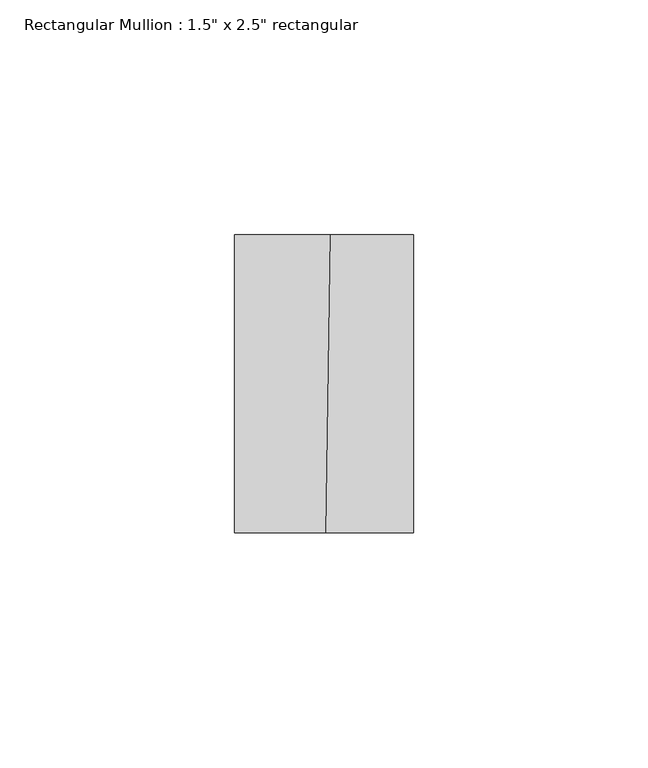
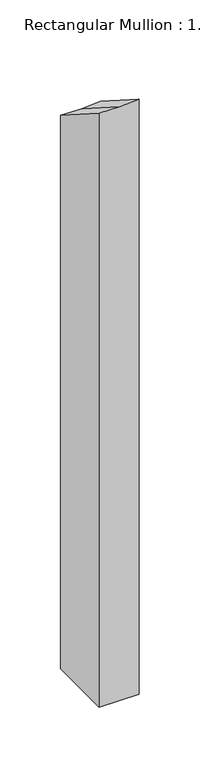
"""IFC4 building model written with IfcOpenShell, lengths in millimetres: member geometry."""

from ifc_helpers import new_model, si_unit, origin, place, context, project, spatial, faceted_brep, source, transform, mapped, element, save


def member_6fa90325(model_context):
    return source(origin(), model_context, "Body", "Brep", [
        faceted_brep([(19.05, 31.75, -614.2573179), (19.05, -31.75, -614.2573179), (-19.05, -31.75, -614.2573179), (-19.05, 31.75, -614.2573179), (-19.05, 31.75, -57.8882299), (1.3818247, 31.75, -58.1393591), (19.05, 31.75, -57.0812497), (-19.05, -31.75, -17.1122691), (19.05, -31.75, -16.2353169), (0.4124006, -31.75, -17.351483)], [[[0, 1, 2, 3]], [[4, 5, 6, 0, 3]], [[7, 4, 3, 2]], [[8, 9, 7, 2, 1]], [[6, 8, 1, 0]], [[6, 5, 9, 8]], [[5, 4, 7, 9]]]),
    ])


if __name__ == "__main__":
    model = new_model("IFC4")
    model_context = context("Model", 3, world=origin())
    ifc_project = project(units=[si_unit("LENGTHUNIT", "METRE", prefix="MILLI")], contexts=[model_context])
    site = spatial("IfcSite", under=ifc_project)
    building = spatial("IfcBuilding", under=site)
    placement = place(None, origin())
    member_shape = member_6fa90325(model_context)
    element("IfcMember", 1, ObjectType="Rectangular Mullion : 1.5\" x 2.5\" rectangular", at=placement, inside=building, context=model_context, shape_type="MappedRepresentation", body=[
        mapped(member_shape, transform((0.0, 0.0, 0.0), x_axis=(1.0, 0.0, 0.0), y_axis=(0.0, 1.0, 0.0), z_axis=(0.0, 0.0, 1.0))),
    ])
    save(model, "model.ifc")
